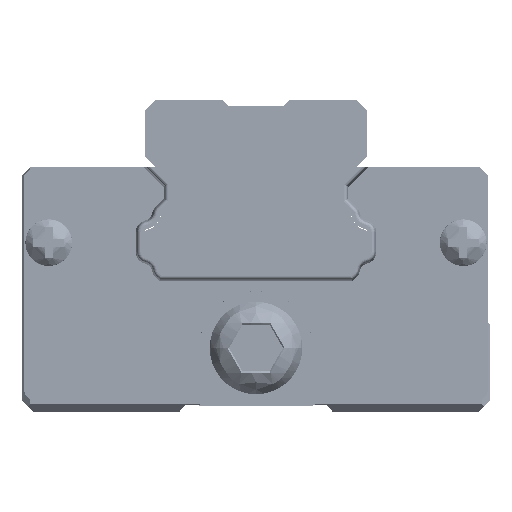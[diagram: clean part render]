
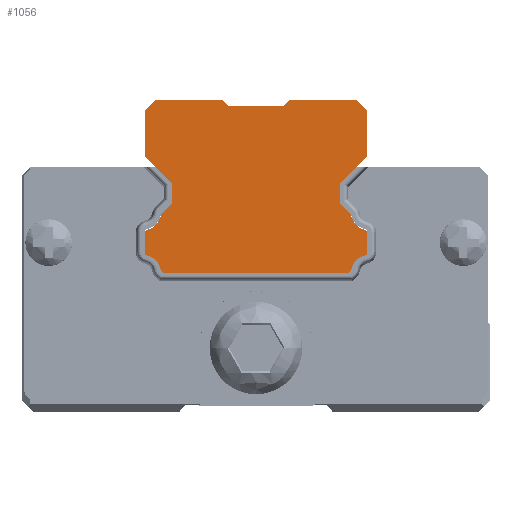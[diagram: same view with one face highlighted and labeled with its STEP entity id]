
A CAD part, front view. The second image highlights one B-rep face of the part: STEP entity #1056.
In plain terms, the highlighted planar face has unit normal (0, -1, 0).
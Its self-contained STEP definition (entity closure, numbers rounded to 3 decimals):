
#1=DIRECTION('',(0.,0.,1.));
#2=VECTOR('',#1,1.726);
#3=CARTESIAN_POINT('',(-10.,0.,-0.863));
#4=LINE('',#3,#2);
#5=CARTESIAN_POINT('',(-9.7,0.,0.863));
#6=DIRECTION('',(0.,1.,0.));
#7=DIRECTION('',(-1.,0.,0.));
#8=AXIS2_PLACEMENT_3D('',#5,#6,#7);
#10=CARTESIAN_POINT('',(-10.15,0.,2.75));
#11=DIRECTION('',(0.,-1.,0.));
#12=DIRECTION('',(0.232,0.,-0.973));
#13=AXIS2_PLACEMENT_3D('',#10,#11,#12);
#15=CARTESIAN_POINT('',(-8.251,0.,2.355));
#16=DIRECTION('',(0.,1.,0.));
#17=DIRECTION('',(-0.979,0.,0.204));
#18=AXIS2_PLACEMENT_3D('',#15,#16,#17);
#20=DIRECTION('',(0.707,0.,0.707));
#21=VECTOR('',#20,1.362);
#22=CARTESIAN_POINT('',(-8.463,0.,2.567));
#23=LINE('',#22,#21);
#24=DIRECTION('',(0.,0.,1.));
#25=VECTOR('',#24,1.77);
#26=CARTESIAN_POINT('',(-7.5,0.,3.53));
#27=LINE('',#26,#25);
#28=DIRECTION('',(-0.707,0.,0.707));
#29=VECTOR('',#28,3.536);
#30=CARTESIAN_POINT('',(-7.5,0.,5.3));
#31=LINE('',#30,#29);
#32=DIRECTION('',(0.,0.,1.));
#33=VECTOR('',#32,4.);
#34=CARTESIAN_POINT('',(-10.,0.,7.8));
#35=LINE('',#34,#33);
#36=DIRECTION('',(0.707,0.,0.707));
#37=VECTOR('',#36,1.414);
#38=CARTESIAN_POINT('',(-10.,0.,11.8));
#39=LINE('',#38,#37);
#40=DIRECTION('',(1.,0.,0.));
#41=VECTOR('',#40,6.);
#42=CARTESIAN_POINT('',(-9.,0.,12.8));
#43=LINE('',#42,#41);
#44=DIRECTION('',(0.707,0.,-0.707));
#45=VECTOR('',#44,0.778);
#46=CARTESIAN_POINT('',(-3.,0.,12.8));
#47=LINE('',#46,#45);
#48=DIRECTION('',(1.,0.,0.));
#49=VECTOR('',#48,4.9);
#50=CARTESIAN_POINT('',(-2.45,0.,12.25));
#51=LINE('',#50,#49);
#52=DIRECTION('',(0.707,0.,0.707));
#53=VECTOR('',#52,0.778);
#54=CARTESIAN_POINT('',(2.45,0.,12.25));
#55=LINE('',#54,#53);
#56=DIRECTION('',(1.,0.,0.));
#57=VECTOR('',#56,6.);
#58=CARTESIAN_POINT('',(3.,0.,12.8));
#59=LINE('',#58,#57);
#60=DIRECTION('',(0.707,0.,-0.707));
#61=VECTOR('',#60,1.414);
#62=CARTESIAN_POINT('',(9.,0.,12.8));
#63=LINE('',#62,#61);
#64=DIRECTION('',(0.,0.,-1.));
#65=VECTOR('',#64,4.);
#66=CARTESIAN_POINT('',(10.,0.,11.8));
#67=LINE('',#66,#65);
#68=DIRECTION('',(-0.707,0.,-0.707));
#69=VECTOR('',#68,3.536);
#70=CARTESIAN_POINT('',(10.,0.,7.8));
#71=LINE('',#70,#69);
#72=DIRECTION('',(0.,0.,-1.));
#73=VECTOR('',#72,1.77);
#74=CARTESIAN_POINT('',(7.5,0.,5.3));
#75=LINE('',#74,#73);
#76=DIRECTION('',(0.707,0.,-0.707));
#77=VECTOR('',#76,1.362);
#78=CARTESIAN_POINT('',(7.5,0.,3.53));
#79=LINE('',#78,#77);
#80=CARTESIAN_POINT('',(8.251,0.,2.355));
#81=DIRECTION('',(0.,1.,0.));
#82=DIRECTION('',(0.707,0.,0.707));
#83=AXIS2_PLACEMENT_3D('',#80,#81,#82);
#85=CARTESIAN_POINT('',(10.15,0.,2.75));
#86=DIRECTION('',(0.,-1.,0.));
#87=DIRECTION('',(-0.979,0.,-0.204));
#88=AXIS2_PLACEMENT_3D('',#85,#86,#87);
#90=CARTESIAN_POINT('',(9.7,0.,0.863));
#91=DIRECTION('',(0.,1.,0.));
#92=DIRECTION('',(0.232,0.,0.973));
#93=AXIS2_PLACEMENT_3D('',#90,#91,#92);
#95=DIRECTION('',(0.,0.,-1.));
#96=VECTOR('',#95,1.726);
#97=CARTESIAN_POINT('',(10.,0.,0.863));
#98=LINE('',#97,#96);
#99=CARTESIAN_POINT('',(9.7,0.,-0.863));
#100=DIRECTION('',(0.,1.,0.));
#101=DIRECTION('',(1.,0.,0.));
#102=AXIS2_PLACEMENT_3D('',#99,#100,#101);
#104=CARTESIAN_POINT('',(10.15,0.,-2.75));
#105=DIRECTION('',(0.,-1.,0.));
#106=DIRECTION('',(-0.232,0.,0.973));
#107=AXIS2_PLACEMENT_3D('',#104,#105,#106);
#109=CARTESIAN_POINT('',(8.248,0.,-2.368));
#110=DIRECTION('',(0.,1.,0.));
#111=DIRECTION('',(0.98,0.,-0.197));
#112=AXIS2_PLACEMENT_3D('',#109,#110,#111);
#114=DIRECTION('',(-0.707,0.,-0.707));
#115=VECTOR('',#114,0.17);
#116=CARTESIAN_POINT('',(8.46,0.,-2.58));
#117=LINE('',#116,#115);
#118=DIRECTION('',(-1.,0.,0.));
#119=VECTOR('',#118,16.68);
#120=CARTESIAN_POINT('',(8.34,0.,-2.7));
#121=LINE('',#120,#119);
#122=DIRECTION('',(-0.707,0.,0.707));
#123=VECTOR('',#122,0.17);
#124=CARTESIAN_POINT('',(-8.34,0.,-2.7));
#125=LINE('',#124,#123);
#126=CARTESIAN_POINT('',(-8.248,0.,-2.368));
#127=DIRECTION('',(0.,1.,0.));
#128=DIRECTION('',(-0.707,0.,-0.707));
#129=AXIS2_PLACEMENT_3D('',#126,#127,#128);
#131=CARTESIAN_POINT('',(-10.15,0.,-2.75));
#132=DIRECTION('',(0.,-1.,0.));
#133=DIRECTION('',(0.98,0.,0.197));
#134=AXIS2_PLACEMENT_3D('',#131,#132,#133);
#136=CARTESIAN_POINT('',(-9.7,0.,-0.863));
#137=DIRECTION('',(0.,1.,0.));
#138=DIRECTION('',(-0.232,0.,-0.973));
#139=AXIS2_PLACEMENT_3D('',#136,#137,#138);
#777=CARTESIAN_POINT('',(-10.,0.,-0.863));
#778=CARTESIAN_POINT('',(-10.,0.,0.863));
#779=VERTEX_POINT('',#777);
#780=VERTEX_POINT('',#778);
#781=CARTESIAN_POINT('',(-9.77,0.,1.155));
#782=VERTEX_POINT('',#781);
#783=CARTESIAN_POINT('',(-8.544,0.,2.416));
#784=VERTEX_POINT('',#783);
#785=CARTESIAN_POINT('',(-8.463,0.,2.567));
#786=VERTEX_POINT('',#785);
#787=CARTESIAN_POINT('',(-7.5,0.,3.53));
#788=VERTEX_POINT('',#787);
#789=CARTESIAN_POINT('',(-7.5,0.,5.3));
#790=VERTEX_POINT('',#789);
#791=CARTESIAN_POINT('',(-10.,0.,7.8));
#792=VERTEX_POINT('',#791);
#793=CARTESIAN_POINT('',(-10.,0.,11.8));
#794=VERTEX_POINT('',#793);
#795=CARTESIAN_POINT('',(-9.,0.,12.8));
#796=CARTESIAN_POINT('',(-3.,0.,12.8));
#797=VERTEX_POINT('',#795);
#798=VERTEX_POINT('',#796);
#799=CARTESIAN_POINT('',(7.5,0.,5.3));
#800=CARTESIAN_POINT('',(7.5,0.,3.53));
#801=VERTEX_POINT('',#799);
#802=VERTEX_POINT('',#800);
#803=CARTESIAN_POINT('',(8.463,0.,2.567));
#804=VERTEX_POINT('',#803);
#805=CARTESIAN_POINT('',(8.544,0.,2.416));
#806=VERTEX_POINT('',#805);
#807=CARTESIAN_POINT('',(9.77,0.,1.155));
#808=VERTEX_POINT('',#807);
#809=CARTESIAN_POINT('',(10.,0.,0.863));
#810=VERTEX_POINT('',#809);
#811=CARTESIAN_POINT('',(10.,0.,-0.863));
#812=VERTEX_POINT('',#811);
#813=CARTESIAN_POINT('',(9.77,0.,-1.155));
#814=VERTEX_POINT('',#813);
#815=CARTESIAN_POINT('',(8.542,0.,-2.427));
#816=VERTEX_POINT('',#815);
#817=CARTESIAN_POINT('',(8.46,0.,-2.58));
#818=VERTEX_POINT('',#817);
#819=CARTESIAN_POINT('',(8.34,0.,-2.7));
#820=VERTEX_POINT('',#819);
#821=CARTESIAN_POINT('',(-8.34,0.,-2.7));
#822=VERTEX_POINT('',#821);
#823=CARTESIAN_POINT('',(-8.46,0.,-2.58));
#824=VERTEX_POINT('',#823);
#825=CARTESIAN_POINT('',(-8.542,0.,-2.427));
#826=VERTEX_POINT('',#825);
#827=CARTESIAN_POINT('',(-9.77,0.,-1.155));
#828=VERTEX_POINT('',#827);
#881=CARTESIAN_POINT('',(9.,0.,12.8));
#882=CARTESIAN_POINT('',(10.,0.,11.8));
#883=VERTEX_POINT('',#881);
#884=VERTEX_POINT('',#882);
#885=CARTESIAN_POINT('',(10.,0.,7.8));
#886=VERTEX_POINT('',#885);
#893=CARTESIAN_POINT('',(-2.45,0.,12.25));
#894=VERTEX_POINT('',#893);
#895=CARTESIAN_POINT('',(2.45,0.,12.25));
#896=VERTEX_POINT('',#895);
#897=CARTESIAN_POINT('',(3.,0.,12.8));
#898=VERTEX_POINT('',#897);
#985=CARTESIAN_POINT('',(0.,0.,0.));
#986=DIRECTION('',(0.,1.,0.));
#987=DIRECTION('',(1.,0.,0.));
#988=AXIS2_PLACEMENT_3D('',#985,#986,#987);
#989=PLANE('',#988);
#991=ORIENTED_EDGE('',*,*,#990,.T.);
#993=ORIENTED_EDGE('',*,*,#992,.T.);
#995=ORIENTED_EDGE('',*,*,#994,.T.);
#997=ORIENTED_EDGE('',*,*,#996,.T.);
#999=ORIENTED_EDGE('',*,*,#998,.T.);
#1001=ORIENTED_EDGE('',*,*,#1000,.T.);
#1003=ORIENTED_EDGE('',*,*,#1002,.T.);
#1005=ORIENTED_EDGE('',*,*,#1004,.T.);
#1007=ORIENTED_EDGE('',*,*,#1006,.T.);
#1009=ORIENTED_EDGE('',*,*,#1008,.T.);
#1011=ORIENTED_EDGE('',*,*,#1010,.T.);
#1013=ORIENTED_EDGE('',*,*,#1012,.T.);
#1015=ORIENTED_EDGE('',*,*,#1014,.T.);
#1017=ORIENTED_EDGE('',*,*,#1016,.T.);
#1019=ORIENTED_EDGE('',*,*,#1018,.T.);
#1021=ORIENTED_EDGE('',*,*,#1020,.T.);
#1023=ORIENTED_EDGE('',*,*,#1022,.T.);
#1025=ORIENTED_EDGE('',*,*,#1024,.T.);
#1027=ORIENTED_EDGE('',*,*,#1026,.T.);
#1029=ORIENTED_EDGE('',*,*,#1028,.T.);
#1031=ORIENTED_EDGE('',*,*,#1030,.T.);
#1033=ORIENTED_EDGE('',*,*,#1032,.T.);
#1035=ORIENTED_EDGE('',*,*,#1034,.T.);
#1037=ORIENTED_EDGE('',*,*,#1036,.T.);
#1039=ORIENTED_EDGE('',*,*,#1038,.T.);
#1041=ORIENTED_EDGE('',*,*,#1040,.T.);
#1043=ORIENTED_EDGE('',*,*,#1042,.T.);
#1045=ORIENTED_EDGE('',*,*,#1044,.T.);
#1047=ORIENTED_EDGE('',*,*,#1046,.T.);
#1049=ORIENTED_EDGE('',*,*,#1048,.T.);
#1051=ORIENTED_EDGE('',*,*,#1050,.T.);
#1053=ORIENTED_EDGE('',*,*,#1052,.T.);
#1054=EDGE_LOOP('',(#991,#993,#995,#997,#999,#1001,#1003,#1005,#1007,#1009,
#1011,#1013,#1015,#1017,#1019,#1021,#1023,#1025,#1027,#1029,#1031,#1033,#1035,
#1037,#1039,#1041,#1043,#1045,#1047,#1049,#1051,#1053));
#1055=FACE_OUTER_BOUND('',#1054,.F.);
#1056=ADVANCED_FACE('',(#1055),#989,.F.);
#9=CIRCLE('',#8,0.3);
#14=CIRCLE('',#13,1.64);
#19=CIRCLE('',#18,0.3);
#84=CIRCLE('',#83,0.3);
#89=CIRCLE('',#88,1.64);
#94=CIRCLE('',#93,0.3);
#103=CIRCLE('',#102,0.3);
#108=CIRCLE('',#107,1.64);
#113=CIRCLE('',#112,0.3);
#130=CIRCLE('',#129,0.3);
#135=CIRCLE('',#134,1.64);
#140=CIRCLE('',#139,0.3);
#990=EDGE_CURVE('',#779,#780,#4,.T.);
#992=EDGE_CURVE('',#780,#782,#9,.T.);
#994=EDGE_CURVE('',#782,#784,#14,.T.);
#996=EDGE_CURVE('',#784,#786,#19,.T.);
#998=EDGE_CURVE('',#786,#788,#23,.T.);
#1000=EDGE_CURVE('',#788,#790,#27,.T.);
#1002=EDGE_CURVE('',#790,#792,#31,.T.);
#1004=EDGE_CURVE('',#792,#794,#35,.T.);
#1006=EDGE_CURVE('',#794,#797,#39,.T.);
#1008=EDGE_CURVE('',#797,#798,#43,.T.);
#1010=EDGE_CURVE('',#798,#894,#47,.T.);
#1012=EDGE_CURVE('',#894,#896,#51,.T.);
#1014=EDGE_CURVE('',#896,#898,#55,.T.);
#1016=EDGE_CURVE('',#898,#883,#59,.T.);
#1018=EDGE_CURVE('',#883,#884,#63,.T.);
#1020=EDGE_CURVE('',#884,#886,#67,.T.);
#1022=EDGE_CURVE('',#886,#801,#71,.T.);
#1024=EDGE_CURVE('',#801,#802,#75,.T.);
#1026=EDGE_CURVE('',#802,#804,#79,.T.);
#1028=EDGE_CURVE('',#804,#806,#84,.T.);
#1030=EDGE_CURVE('',#806,#808,#89,.T.);
#1032=EDGE_CURVE('',#808,#810,#94,.T.);
#1034=EDGE_CURVE('',#810,#812,#98,.T.);
#1036=EDGE_CURVE('',#812,#814,#103,.T.);
#1038=EDGE_CURVE('',#814,#816,#108,.T.);
#1040=EDGE_CURVE('',#816,#818,#113,.T.);
#1042=EDGE_CURVE('',#818,#820,#117,.T.);
#1044=EDGE_CURVE('',#820,#822,#121,.T.);
#1046=EDGE_CURVE('',#822,#824,#125,.T.);
#1048=EDGE_CURVE('',#824,#826,#130,.T.);
#1050=EDGE_CURVE('',#826,#828,#135,.T.);
#1052=EDGE_CURVE('',#828,#779,#140,.T.);
